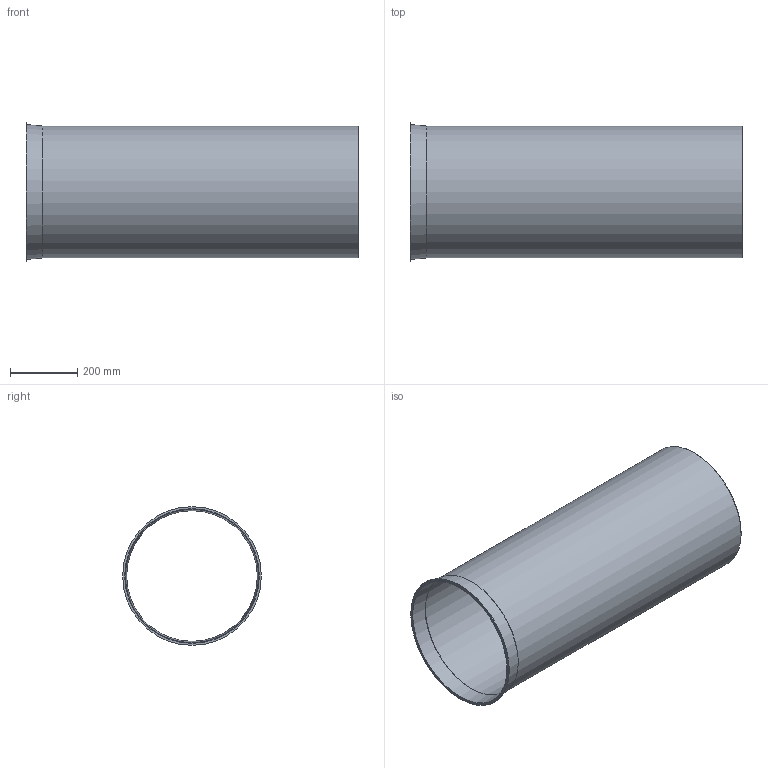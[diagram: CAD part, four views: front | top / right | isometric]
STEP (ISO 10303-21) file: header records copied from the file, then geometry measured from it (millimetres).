
FILE_DESCRIPTION((''),'2;1');
FILE_NAME('U:\Wolfgang\Marcel-3D\fertig\Kapitel 1\4011006.stp','2010-05-31T12:34:21',('TK2'),(''),'Autodesk Inventor 2010','Autodesk Inventor 2010','');
FILE_SCHEMA(('AUTOMOTIVE_DESIGN { 1 0 10303 214 1 1 1 1 }'));
Length unit declared in the file: millimetre
Products named in the file (1): 4011006
Bounding box: 991 x 414 x 414 mm (x, y, z)
Volume: 2457750.1 mm3; surface area: 2462802.7 mm2
Topology: 1 solids, 1 shells, 8 faces, 14 edges, 9 vertices
Faces by surface type: cylinder 3, plane 3, cone 2
Full cylindrical faces by diameter (mm): 390 x1, 394 x1, 414 x1
Entity records: 194 total; most frequent: DIRECTION 34, CARTESIAN_POINT 25, AXIS2_PLACEMENT_3D 17, ORIENTED_EDGE 16, EDGE_LOOP 16, VERTEX_POINT 8, CIRCLE 8, EDGE_CURVE 8
